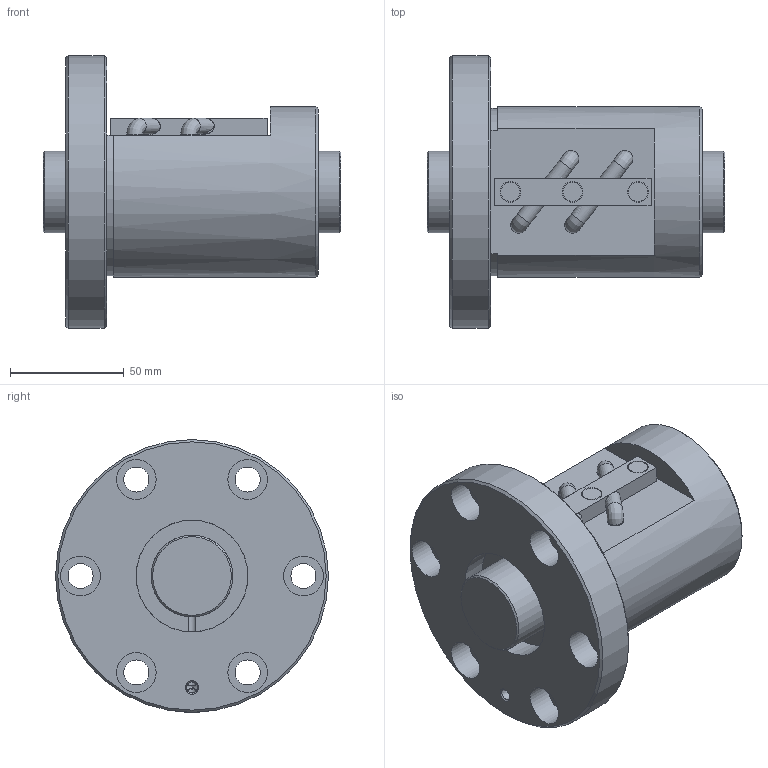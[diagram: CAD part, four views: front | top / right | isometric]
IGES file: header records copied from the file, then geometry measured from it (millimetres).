
Start section: Data from Parasolid IGES Translator 26.0.171, Copyright(c) 2006 Siemens PLM Software. All Rights Reserved.
Global section: file name: BIF3610V-5RRG0+131LC0_000.igs; native system: By Siemens PLM Incorporated; preprocessor: XPlus GENERIC/IGES 26.0.171; author: Noname; organization: Noname; date: 20240715.082338; units: millimetre
Bounding box: 131 x 120 x 120 mm (x, y, z)
Surface area: 86478.2 mm2 (no closed solid volume)
Topology: 0 solids, 0 shells, 98 faces, 451 edges, 400 vertices
Faces by surface type: revolution 57, extrusion 41
